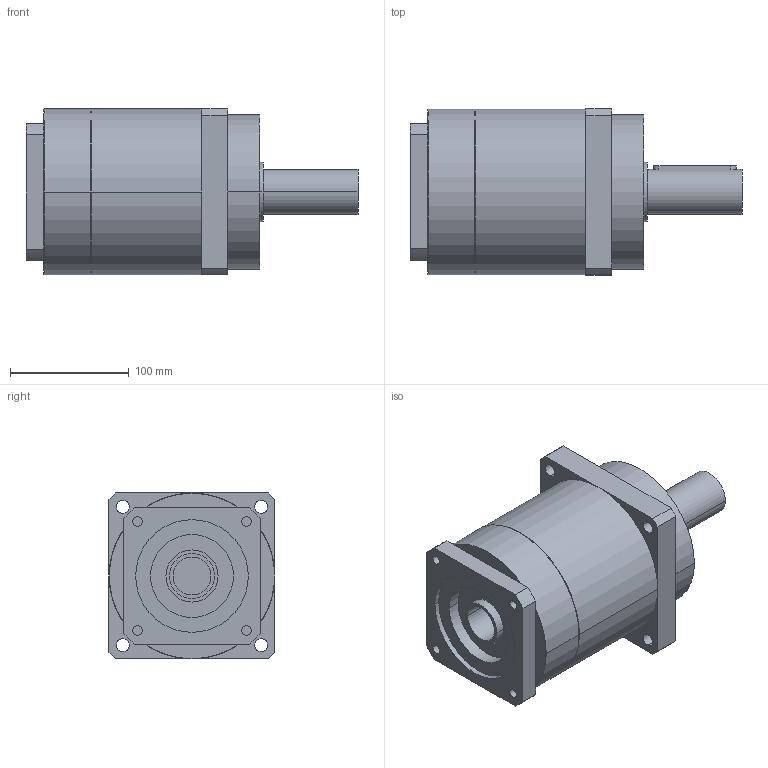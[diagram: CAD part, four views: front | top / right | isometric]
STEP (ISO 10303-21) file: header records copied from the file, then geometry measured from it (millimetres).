
FILE_DESCRIPTION(('CoCreate Modeling STEP Export'),'2;1');
FILE_NAME('GPR150_ig-3-4-5-7_38_B5_32_P10.stp','2014-08-19T16:43:01',(''),(''),'CoCreate Modeling STEP processor for AP214 (Solid Model)','CoCreate Modeling 16.00C 25-Feb-2009 (C) Parametric Technology GmbH','');
FILE_SCHEMA(('AUTOMOTIVE_DESIGN { 1 0 10303 214 1 1 1 1 }'));
Length unit declared in the file: millimetre
Products named in the file (2): GPR150_ig-3-4-5-7_38_B5_32_P10
Assembly tree (1 placements, depth 2):
  GPR150_ig-3-4-5-7_38_B5_32_P10
    GPR150_ig-3-4-5-7_38_B5_32_P10
Bounding box: 280 x 140 x 140 mm (x, y, z)
Volume: 2992154.8 mm3; surface area: 155268.8 mm2
Topology: 1 solids, 1 shells, 92 faces, 231 edges, 153 vertices
Faces by surface type: cylinder 48, plane 38, cone 6
Entity records: 2408 total; most frequent: ORIENTED_EDGE 458, CARTESIAN_POINT 439, DIRECTION 336, EDGE_CURVE 229, VERTEX_POINT 153, AXIS2_PLACEMENT_3D 122, EDGE_LOOP 114, VECTOR 92
